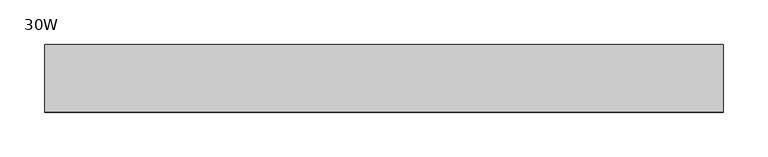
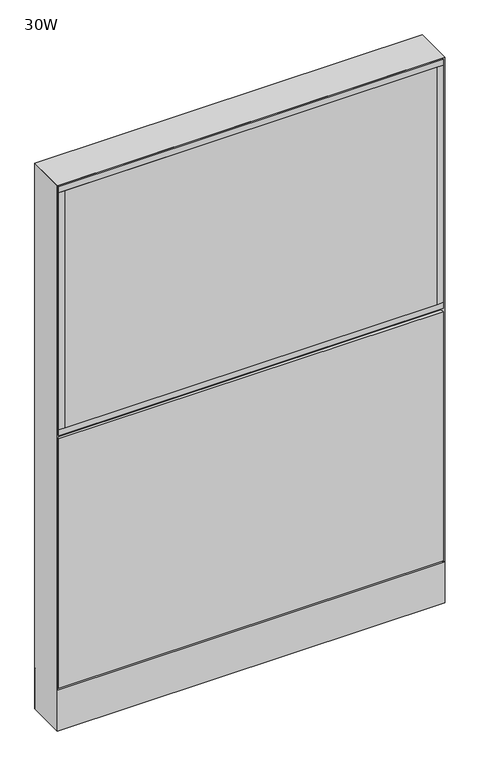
"""IFC4 building model written with IfcOpenShell, lengths in millimetres: furniture geometry, Steelcase - Montage - Frame - 45H - Enhanced Monolithic - Base Cavity : 30W."""

from ifc_helpers import new_model, si_unit, point, frame, frame_2d, origin, origin_with_axes, place, context, project, spatial, polyline, circle_curve, trimmed, segment, composite_curve, outline, extrude, faceted_brep, source, transform, mapped, element, save


def furniture_30w_1f90e741(model_context):
    return source(origin(), model_context, "Body", "SolidModel", [
        extrude(outline(polyline([(3.175, 31.7500194), (3.175, 38.1000194), (758.825, 38.1000194), (758.825, 31.7500194), (3.175, 31.7500194)])), frame((0.0, 0.0, 92.075), z_axis=(0.0, 0.0, 1.0), x_axis=(1.0, 0.0, 0.0)), (0.0, 0.0, 1.0), 517.525),
        extrude(outline(polyline([(746.125, -38.1000015), (15.875, -38.1000015), (15.875, -31.7500017), (746.125, -31.7500017), (746.125, -38.1000015)])), frame((0.0, 0.0, 628.65), z_axis=(0.0, 0.0, 1.0), x_axis=(1.0, 0.0, 0.0)), (0.0, 0.0, 1.0), 492.125),
        extrude(outline(polyline([(746.125, 31.7499985), (15.875, 31.7499985), (15.875, 38.1000015), (746.125, 38.1000015), (746.125, 31.7499985)])), frame((0.0, 0.0, 628.65), z_axis=(0.0, 0.0, 1.0), x_axis=(1.0, 0.0, 0.0)), (0.0, 0.0, 1.0), 492.125),
        extrude(outline(polyline([(758.825, 38.1000015), (758.825, -38.1000015), (746.125, -38.1000015), (746.125, 38.1000015), (758.825, 38.1000015)])), frame((0.0, 0.0, 628.65), z_axis=(0.0, 0.0, 1.0), x_axis=(1.0, 0.0, 0.0)), (0.0, 0.0, 1.0), 492.125),
        extrude(outline(polyline([(15.875, 38.1000015), (15.875, -38.1000015), (3.175, -38.1000015), (3.175, 38.1000015), (15.875, 38.1000015)])), frame((0.0, 0.0, 628.65), z_axis=(0.0, 0.0, 1.0), x_axis=(1.0, 0.0, 0.0)), (0.0, 0.0, 1.0), 492.125),
        extrude(outline(polyline([(758.825, 38.1000015), (758.825, -38.1000015), (3.175, -38.1000015), (3.175, 38.1000015), (758.825, 38.1000015)])), frame((0.0, 0.0, 615.95), z_axis=(0.0, 0.0, 1.0), x_axis=(1.0, 0.0, 0.0)), (0.0, 0.0, 1.0), 12.7),
        extrude(outline(polyline([(758.825, 38.1000015), (758.825, -38.1000015), (3.175, -38.1000015), (3.175, 38.1000015), (758.825, 38.1000015)])), frame((0.0, 0.0, 1120.775), z_axis=(0.0, 0.0, 1.0), x_axis=(1.0, 0.0, 0.0)), (0.0, 0.0, 1.0), 12.7),
        extrude(outline(polyline([(3.175, -31.7500194), (758.825, -31.7500194), (758.825, -38.1000194), (3.175, -38.1000194), (3.175, -31.7500194)])), frame((0.0, 0.0, 92.075), z_axis=(0.0, 0.0, 1.0), x_axis=(1.0, 0.0, 0.0)), (0.0, 0.0, 1.0), 517.525),
        extrude(outline(polyline([(746.125, 38.1000015), (746.125, 31.7500017), (15.875, 31.7500017), (15.875, 38.1000015), (746.125, 38.1000015)])), frame((0.0, 0.0, 628.65), z_axis=(0.0, 0.0, 1.0), x_axis=(1.0, 0.0, 0.0)), (0.0, 0.0, 1.0), 492.125),
        extrude(outline(polyline([(746.125, -31.7499985), (746.125, -38.1000015), (15.875, -38.1000015), (15.875, -31.7499985), (746.125, -31.7499985)])), frame((0.0, 0.0, 628.65), z_axis=(0.0, 0.0, 1.0), x_axis=(1.0, 0.0, 0.0)), (0.0, 0.0, 1.0), 492.125),
        extrude(outline(polyline([(758.825, -38.1000015), (746.125, -38.1000015), (746.125, 38.1000015), (758.825, 38.1000015), (758.825, -38.1000015)])), frame((0.0, 0.0, 628.65), z_axis=(0.0, 0.0, 1.0), x_axis=(1.0, 0.0, 0.0)), (0.0, 0.0, 1.0), 492.125),
        extrude(outline(polyline([(15.875, -38.1000015), (3.175, -38.1000015), (3.175, 38.1000015), (15.875, 38.1000015), (15.875, -38.1000015)])), frame((0.0, 0.0, 628.65), z_axis=(0.0, 0.0, 1.0), x_axis=(1.0, 0.0, 0.0)), (0.0, 0.0, 1.0), 492.125),
        extrude(outline(polyline([(758.825, -38.1000015), (3.175, -38.1000015), (3.175, 38.1000015), (758.825, 38.1000015), (758.825, -38.1000015)])), frame((0.0, 0.0, 615.95), z_axis=(0.0, 0.0, 1.0), x_axis=(1.0, 0.0, 0.0)), (0.0, 0.0, 1.0), 12.7),
        extrude(outline(polyline([(758.825, -38.1000015), (3.175, -38.1000015), (3.175, 38.1000015), (758.825, 38.1000015), (758.825, -38.1000015)])), frame((0.0, 0.0, 1120.775), z_axis=(0.0, 0.0, 1.0), x_axis=(1.0, 0.0, 0.0)), (0.0, 0.0, 1.0), 12.7),
        extrude(outline(polyline([(6.350003, -31.7499985), (755.649997, -31.7499985), (762.0, -38.1000015), (0.0, -38.1000015), (6.350003, -31.7499985)])), frame((0.0, 0.0, 4.064), z_axis=(0.0, 0.0, 1.0), x_axis=(1.0, 0.0, 0.0)), (0.0, 0.0, 1.0), 84.835997),
        extrude(outline(polyline([(6.3500002, 31.7500017), (0.0, 38.1000015), (762.0, 38.1000015), (755.6500002, 31.7500017), (6.3500002, 31.7500017)])), frame((0.0, 0.0, 4.064), z_axis=(0.0, 0.0, 1.0), x_axis=(1.0, 0.0, 0.0)), (0.0, 0.0, 1.0), 84.835997),
        faceted_brep([(762.0, -38.1000015, 1136.65), (0.0, -38.1000015, 1136.65), (6.3500484, -31.749953, 1130.2999516), (755.6499516, -31.749953, 1130.2999516), (6.3500484, 31.749953, 1130.2999516), (755.6499516, 31.749953, 1130.2999516), (0.0, 38.1000015, 1136.65), (762.0, 38.1000015, 1136.65)], [[[0, 1, 2, 3]], [[3, 2, 4, 5]], [[6, 7, 5, 4]], [[1, 0, 7, 6]], [[2, 1, 6, 4]], [[0, 3, 5, 7]]]),
        extrude(outline(composite_curve([segment(trimmed(circle_curve(frame_2d((44.45, 0.0)), 15.24), [point((29.21, 0.0))], [point((59.69, 0.0))], False, "CARTESIAN"), True, "CONTINUOUS"), segment(trimmed(circle_curve(frame_2d((44.45, 0.0)), 15.24), [point((59.69, 0.0))], [point((29.21, 0.0))], False, "CARTESIAN"), True, "CONTINUOUS")], self_intersect=False)), origin_with_axes(), (0.0, 0.0, 1.0), 4.064),
        extrude(outline(composite_curve([segment(trimmed(circle_curve(frame_2d((717.55, 0.0)), 15.24), [point((702.31, 0.0))], [point((732.79, 0.0))], False, "CARTESIAN"), True, "CONTINUOUS"), segment(trimmed(circle_curve(frame_2d((717.55, 0.0)), 15.24), [point((732.79, 0.0))], [point((702.31, 0.0))], False, "CARTESIAN"), True, "CONTINUOUS")], self_intersect=False)), origin_with_axes(), (0.0, 0.0, 1.0), 4.064),
        faceted_brep([(762.0, -38.1000106, 4.064), (762.0, 38.1000015, 4.064), (762.0, 38.1000015, 1136.65), (762.0, -38.1000106, 1136.6499637), (0.0, 38.1000015, 4.064), (0.0, -38.1000015, 4.064), (0.0, -38.1000015, 1136.65), (0.0, 38.1000015, 1136.65), (755.6499879, 31.7500017, 600.202), (6.35, 31.7500017, 600.202), (6.3499998, 31.7500017, 612.902), (755.6499879, 31.7500017, 612.902), (6.35, -31.7499985, 612.902), (755.6499879, -31.7499985, 612.902), (6.350003, -31.7499985, 600.202), (755.6499879, -31.7499985, 600.202), (6.35, 31.7500015, 4.064), (6.35, -31.7500015, 4.064), (755.6499879, 31.7499894, 4.064), (755.6499879, -31.7499985, 4.064), (6.35, 31.7500015, 1130.3), (6.35, -31.7500015, 1130.3), (755.6499879, -31.7499985, 1130.2999516), (755.6499879, 31.7499895, 1130.2999516)], [[[0, 1, 2, 3]], [[4, 5, 6, 7]], [[8, 9, 10, 11]], [[11, 10, 12, 13]], [[13, 12, 14, 15]], [[9, 8, 15, 14]], [[16, 17, 5, 4]], [[18, 1, 0, 19]], [[16, 4, 7, 20, 10, 9]], [[5, 17, 14, 12, 21, 6]], [[12, 10, 20, 21]], [[17, 16, 9, 14]], [[11, 13, 22, 23]], [[18, 19, 15, 8]], [[19, 0, 3, 22, 13, 15]], [[1, 18, 8, 11, 23, 2]], [[7, 6, 21, 20]], [[3, 2, 23, 22]]]),
    ])


if __name__ == "__main__":
    model = new_model("IFC4")
    model_context = context("Model", 3, world=origin())
    ifc_project = project(units=[si_unit("LENGTHUNIT", "METRE", prefix="MILLI")], contexts=[model_context])
    site = spatial("IfcSite", under=ifc_project)
    building = spatial("IfcBuilding", under=site)
    placement = place(None, origin())
    furniture_30w_shape = furniture_30w_1f90e741(model_context)
    element("IfcFurniture", 1, ObjectType="Steelcase - Montage - Frame - 45H - Enhanced Monolithic - Base Cavity : 30W", at=placement, inside=building, context=model_context, shape_type="MappedRepresentation", body=[
        mapped(furniture_30w_shape, transform((0.0, 0.0, 0.0), x_axis=(1.0, 0.0, 0.0), y_axis=(0.0, 1.0, 0.0), z_axis=(0.0, 0.0, 1.0))),
    ])
    save(model, "model.ifc")
